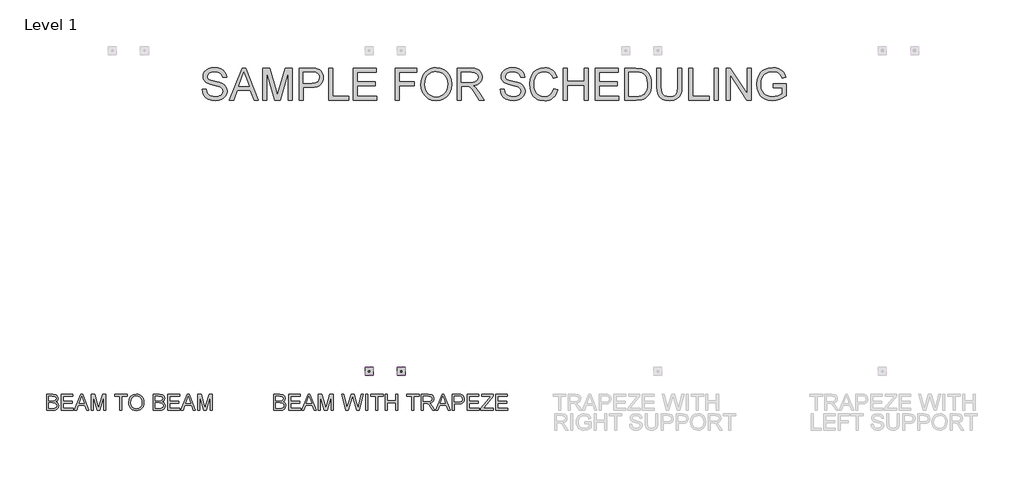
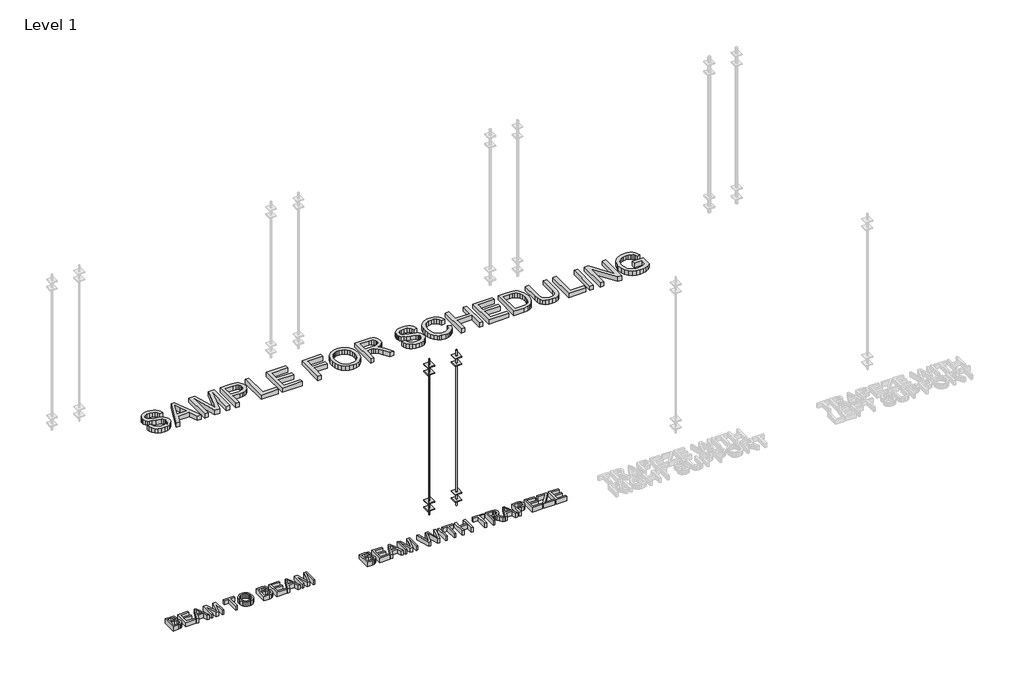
# One storey, part 1 of 3: 13 proxies.
"""IFC4 building model written with IfcOpenShell, lengths in millimetres."""

from ifc_helpers import new_model, si_unit, origin, origin_with_axes, place, context, project, spatial, polyline, outline, extrude, transform, mapped, element, save
from components import square_washer_square_washer_0353e511, threaded_rod_threaded_rod_3e89cda6

model = new_model("IFC4")

# Units and contexts
model_context = context("Model", 3, world=origin())
ifc_project = project(units=[si_unit("LENGTHUNIT", "METRE", prefix="MILLI")], contexts=[model_context])

# Site, building, storey
site = spatial("IfcSite", under=ifc_project)
building = spatial("IfcBuilding", under=site)
storey = spatial("IfcBuildingStorey", under=building, Name="Level 1", Elevation=0.0)

# Proxies
placement = place(None, origin())
element("IfcBuildingElementProxy", 1, Name="12\" Arial", ObjectType="12\" Arial", at=placement, inside=storey, context=model_context, shape_type="SweptSolid", body=[
    extrude(outline(polyline([(699.0566374, -366.945528), (737.1275242, -366.945528), (741.4960097, -388.0722677), (749.3964623, -405.0535934), (761.7211683, -418.530836), (779.3624142, -429.1453264), (800.9260024, -436.0326621), (825.0177354, -438.3284407), (846.2281269, -436.5903411), (864.7988378, -431.3760424), (879.8468762, -423.1223932), (890.4892506, -412.2662418), (896.8189073, -399.8021161), (898.9287929, -386.7245434), (897.3487024, -373.9815781), (892.6084308, -362.9674178), (882.9791733, -353.5705265), (866.732125, -345.6793686), (811.2988319, -331.1425359), (774.9102768, -321.522573), (751.6271783, -312.3673427), (732.6753868, -299.5593149), (719.2446174, -284.0372492), (711.2419237, -266.1357532), (708.5743591, -246.1894341), (711.8739599, -223.8915685), (721.7727622, -203.0994363), (738.0105159, -185.4767797), (760.3269708, -172.6873412), (787.1141523, -164.9077191), (816.7640861, -162.3145117), (848.8863968, -165.0285495), (876.9934187, -173.170663), (900.0813295, -186.5735484), (917.146307, -205.0699021), (927.9466904, -227.5071874), (932.2408188, -252.7328677), (894.169932, -252.7328677), (887.1803552, -230.0167429), (872.6063438, -213.6209802), (849.8344511, -203.6942939), (818.2512301, -200.3853985), (785.9244371, -203.6571153), (763.747402, -213.4722658), (750.9207849, -227.916152), (746.6452458, -245.0740761), (749.6753018, -259.7038553), (758.7654696, -271.4708823), (780.2547006, -281.9924262), (820.9280893, -292.7370417), (862.9027291, -302.9425675), (888.2957132, -311.8468423), (909.9987211, -325.6586923), (925.1397061, -342.7050806), (934.0346863, -362.8001141), (936.9996796, -385.7578998), (933.5885431, -409.2268913), (923.3551333, -431.3016852), (906.7177097, -450.29995), (884.0945313, -464.5393539), (856.8890905, -473.4343341), (826.5048794, -476.3993275), (789.2054486, -473.2019678), (758.5052194, -463.6098889), (734.050995, -447.5859122), (715.4895787, -425.092859), (703.5738373, -397.6922305), (699.0566374, -366.945528)])), origin_with_axes(), (0.0, 0.0, 1.0), 50.8),
    extrude(outline(polyline([(958.637625, -471.6404666), (1080.2116482, -167.0733725), (1112.6313877, -167.0733725), (1234.2054108, -471.6404666), (1193.9781653, -471.6404666), (1159.1046381, -376.4632497), (1033.6640405, -376.4632497), (998.8648706, -471.6404666), (958.637625, -471.6404666)]), holes=[polyline([(1047.6431943, -338.392363), (1145.1998416, -338.392363), (1117.7620345, -263.5146618), (1096.4215179, -205.1442593), (1077.4604318, -256.9712282), (1047.6431943, -338.392363)])]), origin_with_axes(), (0.0, 0.0, 1.0), 50.8),
    extrude(outline(polyline([(1274.8787996, -471.6404666), (1274.8787996, -167.0733725), (1340.3874934, -167.0733725), (1402.6988276, -381.742611), (1415.2651945, -426.580003), (1428.8725623, -378.0247509), (1490.1428956, -167.0733725), (1555.6515895, -167.0733725), (1555.6515895, -471.6404666), (1517.5807027, -471.6404666), (1517.5807027, -205.1442593), (1441.0671432, -471.6404666), (1389.4632459, -471.6404666), (1312.9496864, -205.1442593), (1312.9496864, -471.6404666), (1274.8787996, -471.6404666)])), origin_with_axes(), (0.0, 0.0, 1.0), 50.8),
    extrude(outline(polyline([(1622.2756413, -471.6404666), (1622.2756413, -167.0733725), (1735.149872, -167.0733725), (1780.6564788, -169.9733034), (1800.9466999, -175.3920844), (1817.6491861, -184.2127073), (1831.0985448, -196.8348421), (1841.6293834, -213.6581588), (1848.4330672, -233.5022367), (1850.7009618, -255.1866554), (1849.1696682, -273.882844), (1844.5757874, -291.082594), (1836.9193194, -306.7859053), (1826.2002642, -320.992778), (1811.4845095, -332.7690996), (1791.8379428, -341.180758), (1767.2605643, -346.227753), (1737.752374, -347.9100846), (1660.346528, -347.9100846), (1660.346528, -471.6404666), (1622.2756413, -471.6404666)]), holes=[polyline([(1660.346528, -309.8391979), (1739.98309, -309.8391979), (1773.7412591, -306.3444095), (1796.0484193, -295.8600442), (1808.4846611, -279.0367275), (1812.6300751, -256.525085), (1810.1855821, -239.4229288), (1802.8521032, -224.9976319), (1791.540514, -214.1414806), (1777.1616903, -207.7467613), (1739.0908036, -205.1442593), (1660.346528, -205.1442593), (1660.346528, -309.8391979)])]), origin_with_axes(), (0.0, 0.0, 1.0), 50.8),
    extrude(outline(polyline([(1903.0484311, -471.6404666), (1903.0484311, -167.0733725), (1941.1193179, -167.0733725), (1941.1193179, -433.5695798), (2093.4028649, -433.5695798), (2093.4028649, -471.6404666), (1903.0484311, -471.6404666)])), origin_with_axes(), (0.0, 0.0, 1.0), 50.8),
    extrude(outline(polyline([(2136.2326125, -471.6404666), (2136.2326125, -167.0733725), (2355.1402114, -167.0733725), (2355.1402114, -205.1442593), (2174.3034993, -205.1442593), (2174.3034993, -295.5626153), (2345.6224897, -295.5626153), (2345.6224897, -333.6335021), (2174.3034993, -333.6335021), (2174.3034993, -433.5695798), (2359.8990722, -433.5695798), (2359.8990722, -471.6404666), (2136.2326125, -471.6404666)])), origin_with_axes(), (0.0, 0.0, 1.0), 50.8),
    extrude(outline(polyline([(2535.9769235, -471.6404666), (2535.9769235, -167.0733725), (2740.6079398, -167.0733725), (2740.6079398, -205.1442593), (2574.0478103, -205.1442593), (2574.0478103, -295.5626153), (2716.8136356, -295.5626153), (2716.8136356, -333.6335021), (2574.0478103, -333.6335021), (2574.0478103, -471.6404666), (2535.9769235, -471.6404666)])), origin_with_axes(), (0.0, 0.0, 1.0), 50.8),
    extrude(outline(polyline([(2778.6788266, -323.3722084), (2781.2162661, -287.6482208), (2788.8285845, -256.0231739), (2801.5157818, -228.4970676), (2819.2778582, -205.0699021), (2841.050576, -186.3644188), (2865.7696979, -173.0033593), (2893.4352239, -164.9867236), (2924.0471539, -162.3145117), (2963.99556, -167.3336227), (2999.8171415, -182.3909559), (3029.5600217, -206.426921), (3051.2723243, -238.381928), (3064.5450847, -276.713065), (3068.9693381, -319.87742), (3064.3127184, -363.6180433), (3050.3428593, -402.48827), (3027.8312168, -434.4990449), (2997.5492468, -457.6613129), (2962.0343889, -471.7148238), (2923.8240823, -476.3993275), (2883.2622294, -471.2222074), (2847.2361656, -455.6908471), (2817.5676425, -431.2087387), (2796.0784115, -399.1793745), (2783.0287228, -362.3260869), (2778.6788266, -323.3722084)]), holes=[polyline([(2816.7497133, -323.7439944), (2818.6527929, -348.9836167), (2824.3620318, -371.3883708), (2833.8774298, -390.9582565), (2847.198987, -407.693274), (2863.3925911, -421.0961594), (2881.5241298, -430.669649), (2901.593603, -436.4137428), (2923.6010107, -438.3284407), (2945.9848518, -436.3951535), (2966.2913386, -430.5952918), (2984.5204711, -420.9288557), (3000.6722493, -407.3958452), (3013.8962127, -390.307631), (3023.3419008, -369.9755839), (3029.0093137, -346.399704), (3030.8984514, -319.5799912), (3027.6639131, -285.87759), (3017.9602984, -256.7481566), (3002.0385628, -232.9259684), (2980.1496619, -215.1453028), (2953.743561, -204.0753745), (2924.2702256, -200.3853985), (2903.0273028, -202.1630003), (2883.3179973, -207.4958058), (2865.142309, -216.3838149), (2848.500238, -228.8270277), (2834.6093835, -245.4249491), (2824.6873445, -266.777084), (2818.7341211, -292.8834325), (2816.7497133, -323.7439944)])]), origin_with_axes(), (0.0, 0.0, 1.0), 50.8),
    extrude(outline(polyline([(3121.3168074, -471.6404666), (3121.3168074, -167.0733725), (3252.5572666, -167.0733725), (3287.8304637, -169.1274902), (3313.4929926, -175.2898432), (3332.2495965, -186.6664949), (3346.8050185, -204.3635087), (3356.1461419, -226.3081775), (3359.2598496, -250.4277945), (3354.1013188, -280.430925), (3338.6257265, -305.3034086), (3326.902849, -315.4392246), (3312.36834, -323.5395121), (3274.8644269, -333.6335021), (3296.5023723, -349.9177291), (3327.3606105, -389.1039738), (3378.1465786, -471.6404666), (3333.9040442, -471.6404666), (3294.2716562, -408.5112032), (3265.644134, -366.7224564), (3245.5305112, -346.9806196), (3227.4245328, -339.7307926), (3205.3404442, -338.392363), (3159.3876942, -338.392363), (3159.3876942, -471.6404666), (3121.3168074, -471.6404666)]), holes=[polyline([(3159.3876942, -300.3214762), (3244.6010462, -300.3214762), (3269.0738598, -298.9737519), (3288.06283, -294.9305791), (3302.3580018, -287.922413), (3312.7494206, -277.6797086), (3319.0790773, -265.28994), (3321.1889629, -251.8405813), (3317.1643794, -233.2698705), (3305.0906289, -218.3054838), (3284.317086, -208.4345654), (3254.1931251, -205.1442593), (3159.3876942, -205.1442593), (3159.3876942, -300.3214762)])]), origin_with_axes(), (0.0, 0.0, 1.0), 50.8),
    extrude(outline(polyline([(3530.5788401, -366.945528), (3568.6497268, -366.945528), (3573.0182124, -388.0722677), (3580.9186649, -405.0535934), (3593.243371, -418.530836), (3610.8846168, -429.1453264), (3632.448205, -436.0326621), (3656.539938, -438.3284407), (3677.7503295, -436.5903411), (3696.3210404, -431.3760424), (3711.3690789, -423.1223932), (3722.0114533, -412.2662418), (3728.34111, -399.8021161), (3730.4509955, -386.7245434), (3728.870905, -373.9815781), (3724.1306335, -362.9674178), (3714.501376, -353.5705265), (3698.2543276, -345.6793686), (3642.8210345, -331.1425359), (3606.4324794, -321.522573), (3583.149381, -312.3673427), (3564.1975894, -299.5593149), (3550.7668201, -284.0372492), (3542.7641263, -266.1357532), (3540.0965618, -246.1894341), (3543.3961625, -223.8915685), (3553.2949649, -203.0994363), (3569.5327186, -185.4767797), (3591.8491734, -172.6873412), (3618.636355, -164.9077191), (3648.2862888, -162.3145117), (3680.4085995, -165.0285495), (3708.5156213, -173.170663), (3731.6035322, -186.5735484), (3748.6685097, -205.0699021), (3759.4688931, -227.5071874), (3763.7630215, -252.7328677), (3725.6921347, -252.7328677), (3718.7025578, -230.0167429), (3704.1285465, -213.6209802), (3681.3566538, -203.6942939), (3649.7734328, -200.3853985), (3617.4466398, -203.6571153), (3595.2696047, -213.4722658), (3582.4429875, -227.916152), (3578.1674485, -245.0740761), (3581.1975044, -259.7038553), (3590.2876722, -271.4708823), (3611.7769032, -281.9924262), (3652.450292, -292.7370417), (3694.4249318, -302.9425675), (3719.8179158, -311.8468423), (3741.5209238, -325.6586923), (3756.6619088, -342.7050806), (3765.5568889, -362.8001141), (3768.5218823, -385.7578998), (3765.1107457, -409.2268913), (3754.877336, -431.3016852), (3738.2399123, -450.29995), (3715.616734, -464.5393539), (3688.4112932, -473.4343341), (3658.0270821, -476.3993275), (3620.7276513, -473.2019678), (3590.027422, -463.6098889), (3565.5731976, -447.5859122), (3547.0117814, -425.092859), (3535.09604, -397.6922305), (3530.5788401, -366.945528)])), origin_with_axes(), (0.0, 0.0, 1.0), 50.8),
    extrude(outline(polyline([(4039.7769505, -363.3763824), (4077.8478372, -373.1915329), (4070.3145233, -396.8673303), (4060.2809485, -417.5548977), (4047.7471129, -435.2542352), (4032.7130164, -449.9653426), (4015.5179137, -461.530211), (3996.5010596, -469.7908312), (3975.6624542, -474.7472034), (3953.0020972, -476.3993275), (3908.8432147, -471.3988057), (3890.1725863, -465.1481535), (3873.7744999, -456.3972405), (3846.8943718, -431.9151321), (3827.3012495, -398.4729811), (3815.3390348, -359.1566112), (3811.3516299, -317.0518464), (3815.8595352, -272.6420082), (3829.3832511, -234.292282), (3851.2163841, -203.2202667), (3880.652541, -180.6435617), (3915.5632467, -166.8967742), (3953.8200264, -162.3145117), (3975.5950679, -163.7970084), (3995.5623, -168.2444985), (4013.7217226, -175.6569819), (4030.0733358, -186.0344587), (4044.3475946, -199.1027367), (4056.2749544, -214.5876238), (4073.0889764, -252.8072249), (4035.0180896, -261.8788034), (4021.8196865, -234.1156836), (4003.7880653, -215.0709456), (3980.7001545, -204.0567852), (3952.3328824, -200.3853985), (3919.6343034, -204.4564552), (3892.7727647, -216.6696254), (3872.389597, -235.7422474), (3859.1261314, -260.3916594), (3851.8484203, -288.2570204), (3849.4225167, -316.9774892), (3852.2945635, -352.1484451), (3860.9107042, -382.5605402), (3875.5962513, -407.0519431), (3896.6765177, -424.4608228), (3921.9486713, -434.8615362), (3949.20988, -438.3284407), (3980.9882887, -433.6067584), (4007.4687468, -419.4417117), (4027.4615391, -395.9820149), (4039.7769505, -363.3763824)])), origin_with_axes(), (0.0, 0.0, 1.0), 50.8),
    extrude(outline(polyline([(4130.1953065, -471.6404666), (4130.1953065, -167.0733725), (4168.2661933, -167.0733725), (4168.2661933, -290.8037545), (4330.067462, -290.8037545), (4330.067462, -167.0733725), (4368.1383487, -167.0733725), (4368.1383487, -471.6404666), (4330.067462, -471.6404666), (4330.067462, -328.8746413), (4168.2661933, -328.8746413), (4168.2661933, -471.6404666), (4130.1953065, -471.6404666)])), origin_with_axes(), (0.0, 0.0, 1.0), 50.8),
    extrude(outline(polyline([(4434.7624006, -471.6404666), (4434.7624006, -167.0733725), (4653.6699994, -167.0733725), (4653.6699994, -205.1442593), (4472.8332873, -205.1442593), (4472.8332873, -295.5626153), (4644.1522777, -295.5626153), (4644.1522777, -333.6335021), (4472.8332873, -333.6335021), (4472.8332873, -433.5695798), (4658.4288603, -433.5695798), (4658.4288603, -471.6404666), (4434.7624006, -471.6404666)])), origin_with_axes(), (0.0, 0.0, 1.0), 50.8),
    extrude(outline(polyline([(4715.5351904, -471.6404666), (4715.5351904, -167.0733725), (4820.601915, -167.0733725), (4874.9570287, -171.4604474), (4899.2346548, -179.918579), (4919.7200635, -193.2471072), (4940.7817406, -216.4465538), (4955.7833059, -245.2971477), (4964.7619379, -279.2412098), (4967.7548152, -317.7210612), (4965.7285815, -350.4103455), (4959.6498803, -379.1772875), (4950.3924088, -403.6686905), (4938.8298641, -423.5313578), (4925.5199252, -439.2114325), (4911.0202711, -451.1550578), (4894.3735528, -460.0128593), (4874.6224213, -466.4354626), (4825.6582047, -471.6404666), (4715.5351904, -471.6404666)]), holes=[polyline([(4753.6060772, -433.5695798), (4820.973701, -433.5695798), (4848.839062, -432.1939716), (4869.9750963, -428.067147), (4885.9247158, -421.4307668), (4898.2308325, -412.5264921), (4911.4571196, -396.0470774), (4921.3931006, -374.7158555), (4927.6112215, -348.4398797), (4929.6839284, -317.1262036), (4925.6221663, -275.6348856), (4913.4368801, -244.9997189), (4895.4331429, -223.9566311), (4873.9160279, -211.2415498), (4852.0178323, -206.6685819), (4819.9327002, -205.1442593), (4753.6060772, -205.1442593), (4753.6060772, -433.5695798)])]), origin_with_axes(), (0.0, 0.0, 1.0), 50.8),
    extrude(outline(polyline([(5219.97444, -167.0733725), (5258.0453267, -167.0733725), (5258.0453267, -342.7794378), (5255.461414, -383.9268537), (5247.7096758, -415.6123159), (5233.228611, -440.0572456), (5210.4567183, -459.4830643), (5179.3382298, -472.1702617), (5139.8173776, -476.3993275), (5101.1609279, -472.718646), (5070.2562164, -461.6766017), (5047.0939483, -443.6542752), (5031.6648292, -419.0327471), (5022.9929207, -386.0088554), (5020.1022845, -342.7794378), (5020.1022845, -167.0733725), (5058.1731712, -167.0733725), (5058.1731712, -341.4410082), (5060.0506906, -375.6546152), (5065.6832485, -399.4768033), (5075.8887743, -415.9748072), (5091.4851972, -428.2158614), (5111.8218916, -435.8002959), (5136.248232, -438.3284407), (5174.9697442, -433.3279189), (5189.4647511, -427.0772668), (5200.715925, -418.3263537), (5209.1415253, -406.020237), (5215.1598112, -389.1039738), (5219.97444, -341.4410082), (5219.97444, -167.0733725)])), origin_with_axes(), (0.0, 0.0, 1.0), 50.8),
    extrude(outline(polyline([(5324.6693786, -471.6404666), (5324.6693786, -167.0733725), (5362.7402653, -167.0733725), (5362.7402653, -433.5695798), (5515.0238123, -433.5695798), (5515.0238123, -471.6404666), (5324.6693786, -471.6404666)])), origin_with_axes(), (0.0, 0.0, 1.0), 50.8),
    extrude(outline(polyline([(5562.6124208, -471.6404666), (5562.6124208, -167.0733725), (5600.6833076, -167.0733725), (5600.6833076, -471.6404666), (5562.6124208, -471.6404666)])), origin_with_axes(), (0.0, 0.0, 1.0), 50.8),
    extrude(outline(polyline([(5676.8250811, -471.6404666), (5676.8250811, -167.0733725), (5717.5728271, -167.0733725), (5876.6972366, -408.3624888), (5876.6972366, -167.0733725), (5914.7681233, -167.0733725), (5914.7681233, -471.6404666), (5874.0203773, -471.6404666), (5714.8959678, -230.2769931), (5714.8959678, -471.6404666), (5676.8250811, -471.6404666)])), origin_with_axes(), (0.0, 0.0, 1.0), 50.8),
    extrude(outline(polyline([(6124.1580005, -352.6689455), (6124.1580005, -314.5980587), (6247.8883825, -314.5980587), (6247.8883825, -428.438933), (6217.8201894, -449.3518957), (6186.8039421, -464.3534609), (6154.9139976, -473.3878608), (6122.2247133, -476.3993275), (6079.5157961, -471.6125827), (6040.9151143, -457.2523483), (6008.8485715, -433.8205354), (5985.7420714, -401.8190551), (5971.7722123, -363.4321503), (5967.1155926, -320.8440636), (5971.753623, -277.9492534), (5985.6677142, -238.0473206), (6008.2815978, -204.5772856), (6022.6348612, -191.5438626), (6039.0190057, -180.9781691), (6076.4578562, -166.980426), (6119.176068, -162.3145117), (6150.5362174, -165.0192549), (6178.7361858, -173.1334844), (6202.4840168, -186.0716373), (6220.487754, -203.2481507), (6233.8069876, -225.4902483), (6243.5013076, -253.6251542), (6208.4047089, -263.5146618), (6200.5693189, -243.4475123), (6191.0423025, -228.3065273), (6178.438757, -216.892697), (6161.3737794, -208.0070115), (6141.0277904, -202.2908017), (6118.5812104, -200.3853985), (6092.3052346, -202.4395161), (6069.8400654, -208.6018691), (6051.2693545, -218.1010015), (6036.6767539, -230.1654573), (6017.0836315, -259.499373), (6008.1607674, -288.2384311), (6005.1864794, -319.2825624), (6008.7649196, -355.6897068), (6019.5002405, -385.646364), (6037.0671292, -408.9387571), (6061.1402729, -425.3531092), (6089.3123573, -435.0846078), (6119.176068, -438.3284407), (6145.5449903, -435.8839477), (6171.2632871, -428.5504688), (6193.5983313, -418.4471842), (6209.8174957, -407.693274), (6209.8174957, -352.6689455), (6124.1580005, -352.6689455)])), origin_with_axes(), (0.0, 0.0, 1.0), 50.8),
])
element("IfcBuildingElementProxy", 2, Name="6\" Arial", ObjectType="6\" Arial", at=placement, inside=storey, context=model_context, shape_type="SweptSolid", body=[
    extrude(outline(polyline([(-778.0718909, -3418.4860814), (-778.0718909, -3265.3906647), (-719.6519358, -3265.3906647), (-691.0399872, -3269.8945704), (-681.4248026, -3275.6085503), (-674.1456687, -3283.7426788), (-668.0345602, -3303.3281276), (-673.1738717, -3321.2129315), (-688.7039365, -3334.7620254), (-677.8599893, -3340.4246122), (-669.8473355, -3349.0399671), (-664.8995802, -3360.0380936), (-663.2503284, -3372.8489955), (-667.7542341, -3393.4249298), (-678.9112121, -3408.0766396), (-695.5625813, -3415.8510162), (-720.1004575, -3418.4860814), (-778.0718909, -3418.4860814)]), holes=[polyline([(-758.9349638, -3327.5856777), (-723.9876458, -3327.5856777), (-703.5799072, -3325.9410981), (-691.3016249, -3318.8581924), (-687.1714873, -3306.3930261), (-691.0212988, -3293.9091713), (-702.0474579, -3286.5272512), (-726.6413994, -3284.5275918), (-758.9349638, -3284.5275918), (-758.9349638, -3327.5856777)]), polyline([(-758.9349638, -3399.3491543), (-719.6893126, -3399.3491543), (-705.4861245, -3398.6016181), (-693.4694799, -3394.4341037), (-685.5082192, -3385.9308792), (-682.3872555, -3373.0358796), (-686.0501829, -3358.1599089), (-697.9173203, -3349.2829163), (-721.5581531, -3346.7226048), (-758.9349638, -3346.7226048), (-758.9349638, -3399.3491543)])]), origin_with_axes(), (0.0, 0.0, 1.0), 50.8),
    extrude(outline(polyline([(-636.9370537, -3418.4860814), (-636.9370537, -3265.3906647), (-526.8997229, -3265.3906647), (-526.8997229, -3284.5275918), (-617.8001266, -3284.5275918), (-617.8001266, -3329.9777936), (-531.6839547, -3329.9777936), (-531.6839547, -3349.1147207), (-617.8001266, -3349.1147207), (-617.8001266, -3399.3491543), (-524.5076071, -3399.3491543), (-524.5076071, -3418.4860814), (-636.9370537, -3418.4860814)])), origin_with_axes(), (0.0, 0.0, 1.0), 50.8),
    extrude(outline(polyline([(-513.6309551, -3418.4860814), (-452.5198696, -3265.3906647), (-436.2235802, -3265.3906647), (-375.1124947, -3418.4860814), (-395.3333492, -3418.4860814), (-412.8630735, -3370.6437637), (-475.9177531, -3370.6437637), (-493.4101006, -3418.4860814), (-513.6309551, -3418.4860814)]), holes=[polyline([(-468.8909127, -3351.5068366), (-419.8525371, -3351.5068366), (-433.6445802, -3313.8683882), (-444.3717249, -3284.5275918), (-453.9028116, -3310.5792289), (-468.8909127, -3351.5068366)])]), origin_with_axes(), (0.0, 0.0, 1.0), 50.8),
    extrude(outline(polyline([(-354.6673792, -3418.4860814), (-354.6673792, -3265.3906647), (-321.738409, -3265.3906647), (-290.4166416, -3373.2975172), (-284.0999606, -3395.8357341), (-277.2600042, -3371.4286767), (-246.4615122, -3265.3906647), (-213.532542, -3265.3906647), (-213.532542, -3418.4860814), (-232.669469, -3418.4860814), (-232.669469, -3284.5275918), (-271.1302073, -3418.4860814), (-297.0697139, -3418.4860814), (-335.5304521, -3284.5275918), (-335.5304521, -3418.4860814), (-354.6673792, -3418.4860814)])), origin_with_axes(), (0.0, 0.0, 1.0), 50.8),
    extrude(outline(polyline([(-81.9661683, -3418.4860814), (-81.9661683, -3284.5275918), (-132.2006018, -3284.5275918), (-132.2006018, -3265.3906647), (-12.5948076, -3265.3906647), (-12.5948076, -3284.5275918), (-62.8292412, -3284.5275918), (-62.8292412, -3418.4860814), (-81.9661683, -3418.4860814)])), origin_with_axes(), (0.0, 0.0, 1.0), 50.8),
    extrude(outline(polyline([(1.7578877, -3343.9567208), (6.8598224, -3310.1026745), (13.2372407, -3296.2662464), (22.1656264, -3284.490215), (45.5354773, -3268.3714654), (74.8295527, -3262.9985488), (94.9102442, -3265.5214835), (112.9165228, -3273.0902877), (127.8672471, -3285.1723418), (138.7812758, -3301.2350262), (145.4530365, -3320.5027721), (147.6769567, -3342.2000107), (145.336234, -3364.1869196), (138.3140657, -3383.7256474), (126.9982362, -3399.8163644), (111.7765301, -3411.459241), (93.9244308, -3418.5234582), (74.7174222, -3420.8781973), (54.328372, -3418.2758368), (36.2193072, -3410.4687555), (21.3059597, -3398.1624406), (10.5040614, -3382.0623793), (3.9444312, -3363.5374975), (1.7578877, -3343.9567208)]), holes=[polyline([(20.8948148, -3344.1436049), (24.7212658, -3368.0927963), (36.2006188, -3386.3420242), (53.454689, -3397.8914587), (74.6052918, -3401.7412702), (96.0642533, -3397.8540819), (113.3463561, -3386.1925169), (124.7416113, -3367.3826369), (128.5400297, -3342.0505035), (126.9141384, -3325.109464), (122.0364646, -3310.4670984), (114.033155, -3298.4925027), (103.0303564, -3289.5547728), (89.7569165, -3283.9903001), (74.9416831, -3282.1354759), (54.3564046, -3285.7096334), (36.854713, -3296.432106), (24.8847894, -3315.5082958), (20.8948148, -3344.1436049)])]), origin_with_axes(), (0.0, 0.0, 1.0), 50.8),
    extrude(outline(polyline([(233.7931286, -3418.4860814), (233.7931286, -3265.3906647), (292.2130838, -3265.3906647), (320.8250324, -3269.8945704), (330.4402169, -3275.6085503), (337.7193508, -3283.7426788), (343.8304594, -3303.3281276), (338.6911479, -3321.2129315), (323.161083, -3334.7620254), (334.0050302, -3340.4246122), (342.017684, -3349.0399671), (346.9654394, -3360.0380936), (348.6146911, -3372.8489955), (344.1107854, -3393.4249298), (332.9538074, -3408.0766396), (316.3024383, -3415.8510162), (291.764562, -3418.4860814), (233.7931286, -3418.4860814)]), holes=[polyline([(252.9300557, -3327.5856777), (287.8773737, -3327.5856777), (308.2851124, -3325.9410981), (320.5633947, -3318.8581924), (324.6935323, -3306.3930261), (320.8437208, -3293.9091713), (309.8175616, -3286.5272512), (285.2236202, -3284.5275918), (252.9300557, -3284.5275918), (252.9300557, -3327.5856777)]), polyline([(252.9300557, -3399.3491543), (292.175707, -3399.3491543), (306.378895, -3398.6016181), (318.3955397, -3394.4341037), (326.3568003, -3385.9308792), (329.477764, -3373.0358796), (325.8148366, -3358.1599089), (313.9476992, -3349.2829163), (290.3068664, -3346.7226048), (252.9300557, -3346.7226048), (252.9300557, -3399.3491543)])]), origin_with_axes(), (0.0, 0.0, 1.0), 50.8),
    extrude(outline(polyline([(374.9279659, -3418.4860814), (374.9279659, -3265.3906647), (484.9652966, -3265.3906647), (484.9652966, -3284.5275918), (394.0648929, -3284.5275918), (394.0648929, -3329.9777936), (480.1810648, -3329.9777936), (480.1810648, -3349.1147207), (394.0648929, -3349.1147207), (394.0648929, -3399.3491543), (487.3574125, -3399.3491543), (487.3574125, -3418.4860814), (374.9279659, -3418.4860814)])), origin_with_axes(), (0.0, 0.0, 1.0), 50.8),
    extrude(outline(polyline([(498.2340644, -3418.4860814), (559.3451499, -3265.3906647), (575.6414394, -3265.3906647), (636.7525249, -3418.4860814), (616.5316703, -3418.4860814), (599.0019461, -3370.6437637), (535.9472664, -3370.6437637), (518.454919, -3418.4860814), (498.2340644, -3418.4860814)]), holes=[polyline([(542.9741068, -3351.5068366), (592.0124825, -3351.5068366), (578.2204393, -3313.8683882), (567.4932946, -3284.5275918), (557.9622079, -3310.5792289), (542.9741068, -3351.5068366)])]), origin_with_axes(), (0.0, 0.0, 1.0), 50.8),
    extrude(outline(polyline([(657.1976403, -3418.4860814), (657.1976403, -3265.3906647), (690.1266106, -3265.3906647), (721.448378, -3373.2975172), (727.765059, -3395.8357341), (734.6050153, -3371.4286767), (765.4035074, -3265.3906647), (798.3324776, -3265.3906647), (798.3324776, -3418.4860814), (779.1955505, -3418.4860814), (779.1955505, -3284.5275918), (740.7348123, -3418.4860814), (714.7953056, -3418.4860814), (676.3345674, -3284.5275918), (676.3345674, -3418.4860814), (657.1976403, -3418.4860814)])), origin_with_axes(), (0.0, 0.0, 1.0), 50.8),
])
element("IfcBuildingElementProxy", 3, Name="6\" Arial", ObjectType="6\" Arial", at=placement, inside=storey, context=model_context, shape_type="SweptSolid", body=[
    extrude(outline(polyline([(1380.9281091, -3418.4860814), (1380.9281091, -3265.3906647), (1439.3480642, -3265.3906647), (1467.9600128, -3269.8945704), (1477.5751974, -3275.6085503), (1484.8543313, -3283.7426788), (1490.9654398, -3303.3281276), (1485.8261283, -3321.2129315), (1470.2960635, -3334.7620254), (1481.1400107, -3340.4246122), (1489.1526645, -3349.0399671), (1494.1004198, -3360.0380936), (1495.7496716, -3372.8489955), (1491.2457659, -3393.4249298), (1480.0887879, -3408.0766396), (1463.4374187, -3415.8510162), (1438.8995425, -3418.4860814), (1380.9281091, -3418.4860814)]), holes=[polyline([(1400.0650362, -3327.5856777), (1435.0123542, -3327.5856777), (1455.4200928, -3325.9410981), (1467.6983751, -3318.8581924), (1471.8285127, -3306.3930261), (1467.9787012, -3293.9091713), (1456.9525421, -3286.5272512), (1432.3586006, -3284.5275918), (1400.0650362, -3284.5275918), (1400.0650362, -3327.5856777)]), polyline([(1400.0650362, -3399.3491543), (1439.3106874, -3399.3491543), (1453.5138755, -3398.6016181), (1465.5305201, -3394.4341037), (1473.4917808, -3385.9308792), (1476.6127445, -3373.0358796), (1472.9498171, -3358.1599089), (1461.0826797, -3349.2829163), (1437.4418469, -3346.7226048), (1400.0650362, -3346.7226048), (1400.0650362, -3399.3491543)])]), origin_with_axes(), (0.0, 0.0, 1.0), 50.8),
    extrude(outline(polyline([(1522.0629463, -3418.4860814), (1522.0629463, -3265.3906647), (1632.1002771, -3265.3906647), (1632.1002771, -3284.5275918), (1541.1998734, -3284.5275918), (1541.1998734, -3329.9777936), (1627.3160453, -3329.9777936), (1627.3160453, -3349.1147207), (1541.1998734, -3349.1147207), (1541.1998734, -3399.3491543), (1634.4923929, -3399.3491543), (1634.4923929, -3418.4860814), (1522.0629463, -3418.4860814)])), origin_with_axes(), (0.0, 0.0, 1.0), 50.8),
    extrude(outline(polyline([(1645.3690449, -3418.4860814), (1706.4801304, -3265.3906647), (1722.7764198, -3265.3906647), (1783.8875053, -3418.4860814), (1763.6666508, -3418.4860814), (1746.1369265, -3370.6437637), (1683.0822469, -3370.6437637), (1665.5898994, -3418.4860814), (1645.3690449, -3418.4860814)]), holes=[polyline([(1690.1090873, -3351.5068366), (1739.1474629, -3351.5068366), (1725.3554198, -3313.8683882), (1714.6282751, -3284.5275918), (1705.0971884, -3310.5792289), (1690.1090873, -3351.5068366)])]), origin_with_axes(), (0.0, 0.0, 1.0), 50.8),
    extrude(outline(polyline([(1804.3326208, -3418.4860814), (1804.3326208, -3265.3906647), (1837.261591, -3265.3906647), (1868.5833584, -3373.2975172), (1874.9000394, -3395.8357341), (1881.7399958, -3371.4286767), (1912.5384878, -3265.3906647), (1945.467458, -3265.3906647), (1945.467458, -3418.4860814), (1926.330531, -3418.4860814), (1926.330531, -3284.5275918), (1887.8697927, -3418.4860814), (1861.9302861, -3418.4860814), (1823.4695479, -3284.5275918), (1823.4695479, -3418.4860814), (1804.3326208, -3418.4860814)])), origin_with_axes(), (0.0, 0.0, 1.0), 50.8),
    extrude(outline(polyline([(2066.1571798, -3418.4860814), (2024.4072823, -3265.3906647), (2044.1422383, -3265.3906647), (2068.3624117, -3366.0090391), (2075.8377738, -3397.0691688), (2083.8364113, -3369.597213), (2114.1863816, -3265.3906647), (2142.6301345, -3265.3906647), (2164.6824529, -3340.9291992), (2181.0908728, -3397.0691688), (2188.341974, -3366.9060826), (2212.7864082, -3265.3906647), (2232.5213643, -3265.3906647), (2190.7340899, -3418.4860814), (2170.2889745, -3418.4860814), (2133.5849463, -3300.3753595), (2128.4643233, -3283.892186), (2122.7082944, -3303.7392725), (2089.2560488, -3418.4860814), (2066.1571798, -3418.4860814)])), origin_with_axes(), (0.0, 0.0, 1.0), 50.8),
    extrude(outline(polyline([(2254.0504073, -3418.4860814), (2254.0504073, -3265.3906647), (2273.1873344, -3265.3906647), (2273.1873344, -3418.4860814), (2254.0504073, -3418.4860814)])), origin_with_axes(), (0.0, 0.0, 1.0), 50.8),
    extrude(outline(polyline([(2349.7350427, -3418.4860814), (2349.7350427, -3284.5275918), (2299.5006091, -3284.5275918), (2299.5006091, -3265.3906647), (2419.1064034, -3265.3906647), (2419.1064034, -3284.5275918), (2368.8719698, -3284.5275918), (2368.8719698, -3418.4860814), (2349.7350427, -3418.4860814)])), origin_with_axes(), (0.0, 0.0, 1.0), 50.8),
    extrude(outline(polyline([(2440.6354463, -3418.4860814), (2440.6354463, -3265.3906647), (2459.7723734, -3265.3906647), (2459.7723734, -3327.5856777), (2541.1043135, -3327.5856777), (2541.1043135, -3265.3906647), (2560.2412406, -3265.3906647), (2560.2412406, -3418.4860814), (2541.1043135, -3418.4860814), (2541.1043135, -3346.7226048), (2459.7723734, -3346.7226048), (2459.7723734, -3418.4860814), (2440.6354463, -3418.4860814)])), origin_with_axes(), (0.0, 0.0, 1.0), 50.8),
    extrude(outline(polyline([(2691.8076143, -3418.4860814), (2691.8076143, -3284.5275918), (2641.5731807, -3284.5275918), (2641.5731807, -3265.3906647), (2761.178975, -3265.3906647), (2761.178975, -3284.5275918), (2710.9445414, -3284.5275918), (2710.9445414, -3418.4860814), (2691.8076143, -3418.4860814)])), origin_with_axes(), (0.0, 0.0, 1.0), 50.8),
    extrude(outline(polyline([(2782.7080179, -3418.4860814), (2782.7080179, -3265.3906647), (2848.6780889, -3265.3906647), (2879.3083852, -3269.5208023), (2888.7366857, -3275.2394543), (2896.0531964, -3284.1351353), (2900.7486583, -3295.1659665), (2902.3138122, -3307.2900695), (2899.720796, -3322.3716126), (2891.9417472, -3334.8741558), (2878.743061, -3344.0408186), (2859.8911321, -3349.1147207), (2870.767784, -3357.3002422), (2886.2791604, -3376.9978215), (2911.8075221, -3418.4860814), (2889.5683198, -3418.4860814), (2869.6464797, -3386.7531691), (2855.2564075, -3365.7474015), (2845.1459802, -3355.8238582), (2836.0447268, -3352.1796192), (2824.9438141, -3351.5068366), (2801.844945, -3351.5068366), (2801.844945, -3418.4860814), (2782.7080179, -3418.4860814)]), holes=[polyline([(2801.844945, -3332.3699095), (2844.6787701, -3332.3699095), (2866.525516, -3329.6600907), (2878.9346171, -3320.9886706), (2883.1768851, -3308.0002289), (2881.1538653, -3298.6653704), (2875.0848056, -3291.1432873), (2864.6426591, -3286.1815157), (2849.5003787, -3284.5275918), (2801.844945, -3284.5275918), (2801.844945, -3332.3699095)])]), origin_with_axes(), (0.0, 0.0, 1.0), 50.8),
    extrude(outline(polyline([(2917.9746959, -3418.4860814), (2979.0857814, -3265.3906647), (2995.3820709, -3265.3906647), (3056.4931564, -3418.4860814), (3036.2723018, -3418.4860814), (3018.7425776, -3370.6437637), (2955.6878979, -3370.6437637), (2938.1955505, -3418.4860814), (2917.9746959, -3418.4860814)]), holes=[polyline([(2962.7147383, -3351.5068366), (3011.753114, -3351.5068366), (2997.9610708, -3313.8683882), (2987.2339262, -3284.5275918), (2977.7028394, -3310.5792289), (2962.7147383, -3351.5068366)])]), origin_with_axes(), (0.0, 0.0, 1.0), 50.8),
    extrude(outline(polyline([(3076.9382719, -3418.4860814), (3076.9382719, -3265.3906647), (3133.6762705, -3265.3906647), (3156.5508787, -3266.8483603), (3175.145842, -3274.0060196), (3187.1998635, -3288.8072366), (3191.7598344, -3309.6821854), (3188.6809196, -3327.7258408), (3179.4441752, -3342.7606629), (3162.1714166, -3352.908467), (3134.9844589, -3356.2910684), (3096.0751989, -3356.2910684), (3096.0751989, -3418.4860814), (3076.9382719, -3418.4860814)]), holes=[polyline([(3096.0751989, -3337.1541413), (3136.1057632, -3337.1541413), (3153.0748353, -3335.3974312), (3164.2878785, -3330.1273009), (3170.5391501, -3321.6707974), (3172.6229073, -3310.354968), (3167.7078567, -3294.5072003), (3154.7941686, -3285.8357802), (3135.6572415, -3284.5275918), (3096.0751989, -3284.5275918), (3096.0751989, -3337.1541413)])]), origin_with_axes(), (0.0, 0.0, 1.0), 50.8),
    extrude(outline(polyline([(3218.0731091, -3418.4860814), (3218.0731091, -3265.3906647), (3328.1104398, -3265.3906647), (3328.1104398, -3284.5275918), (3237.2100362, -3284.5275918), (3237.2100362, -3329.9777936), (3323.3262081, -3329.9777936), (3323.3262081, -3349.1147207), (3237.2100362, -3349.1147207), (3237.2100362, -3399.3491543), (3330.5025557, -3399.3491543), (3330.5025557, -3418.4860814), (3218.0731091, -3418.4860814)])), origin_with_axes(), (0.0, 0.0, 1.0), 50.8),
    extrude(outline(polyline([(3347.2473669, -3418.4860814), (3347.2473669, -3398.6389949), (3425.5517853, -3302.7674754), (3440.427756, -3284.5275918), (3356.8158305, -3284.5275918), (3356.8158305, -3265.3906647), (3464.4610453, -3265.3906647), (3464.4610453, -3284.5275918), (3378.7560183, -3389.4442995), (3370.6826272, -3399.3491543), (3466.8531612, -3399.3491543), (3466.8531612, -3418.4860814), (3347.2473669, -3418.4860814)])), origin_with_axes(), (0.0, 0.0, 1.0), 50.8),
    extrude(outline(polyline([(3488.3822042, -3418.4860814), (3488.3822042, -3265.3906647), (3598.4195349, -3265.3906647), (3598.4195349, -3284.5275918), (3507.5191312, -3284.5275918), (3507.5191312, -3329.9777936), (3593.6353031, -3329.9777936), (3593.6353031, -3349.1147207), (3507.5191312, -3349.1147207), (3507.5191312, -3399.3491543), (3600.8116508, -3399.3491543), (3600.8116508, -3418.4860814), (3488.3822042, -3418.4860814)])), origin_with_axes(), (0.0, 0.0, 1.0), 50.8),
])
square_washer_square_washer_shape = square_washer_square_washer_0353e511(model_context)
element("IfcBuildingElementProxy", 4, Name="SQUARE WASHER : SQUARE WASHER", ObjectType="SQUARE WASHER : SQUARE WASHER", at=placement, inside=storey, context=model_context, shape_type="MappedRepresentation", body=[
    mapped(square_washer_square_washer_shape, transform((2590.8, -3048.0, 1743.075), x_axis=(1.0, 0.0, 0.0), y_axis=(0.0, 1.0, 0.0), z_axis=(0.0, 0.0, 1.0))),
])
element("IfcBuildingElementProxy", 5, Name="SQUARE WASHER : SQUARE WASHER", ObjectType="SQUARE WASHER : SQUARE WASHER", at=placement, inside=storey, context=model_context, shape_type="MappedRepresentation", body=[
    mapped(square_washer_square_washer_shape, transform((2590.8, -3048.0, 1828.8), x_axis=(1.0, 0.0, 0.0), y_axis=(0.0, 1.0, 0.0), z_axis=(0.0, 0.0, 1.0))),
])
element("IfcBuildingElementProxy", 6, Name="SQUARE WASHER : SQUARE WASHER", ObjectType="SQUARE WASHER : SQUARE WASHER", at=placement, inside=storey, context=model_context, shape_type="MappedRepresentation", body=[
    mapped(square_washer_square_washer_shape, transform((2590.8, -3048.0, 228.6), x_axis=(1.0, 0.0, 0.0), y_axis=(0.0, 1.0, 0.0), z_axis=(0.0, 0.0, 1.0))),
])
element("IfcBuildingElementProxy", 7, Name="SQUARE WASHER : SQUARE WASHER", ObjectType="SQUARE WASHER : SQUARE WASHER", at=placement, inside=storey, context=model_context, shape_type="MappedRepresentation", body=[
    mapped(square_washer_square_washer_shape, transform((2590.8, -3048.0, 142.875), x_axis=(1.0, 0.0, 0.0), y_axis=(0.0, 1.0, 0.0), z_axis=(0.0, 0.0, 1.0))),
])
element("IfcBuildingElementProxy", 8, Name="SQUARE WASHER : SQUARE WASHER", ObjectType="SQUARE WASHER : SQUARE WASHER", at=placement, inside=storey, context=model_context, shape_type="MappedRepresentation", body=[
    mapped(square_washer_square_washer_shape, transform((2286.0, -3048.0, 1743.075), x_axis=(1.0, 0.0, 0.0), y_axis=(0.0, 1.0, 0.0), z_axis=(0.0, 0.0, 1.0))),
])
element("IfcBuildingElementProxy", 9, Name="SQUARE WASHER : SQUARE WASHER", ObjectType="SQUARE WASHER : SQUARE WASHER", at=placement, inside=storey, context=model_context, shape_type="MappedRepresentation", body=[
    mapped(square_washer_square_washer_shape, transform((2286.0, -3048.0, 1828.8), x_axis=(1.0, 0.0, 0.0), y_axis=(0.0, 1.0, 0.0), z_axis=(0.0, 0.0, 1.0))),
])
element("IfcBuildingElementProxy", 10, Name="SQUARE WASHER : SQUARE WASHER", ObjectType="SQUARE WASHER : SQUARE WASHER", at=placement, inside=storey, context=model_context, shape_type="MappedRepresentation", body=[
    mapped(square_washer_square_washer_shape, transform((2286.0, -3048.0, 228.6), x_axis=(1.0, 0.0, 0.0), y_axis=(0.0, 1.0, 0.0), z_axis=(0.0, 0.0, 1.0))),
])
element("IfcBuildingElementProxy", 11, Name="SQUARE WASHER : SQUARE WASHER", ObjectType="SQUARE WASHER : SQUARE WASHER", at=placement, inside=storey, context=model_context, shape_type="MappedRepresentation", body=[
    mapped(square_washer_square_washer_shape, transform((2286.0, -3048.0, 142.875), x_axis=(1.0, 0.0, 0.0), y_axis=(0.0, 1.0, 0.0), z_axis=(0.0, 0.0, 1.0))),
])
threaded_rod_threaded_rod_shape = threaded_rod_threaded_rod_3e89cda6(model_context)
element("IfcBuildingElementProxy", 12, Name="THREADED ROD : THREADED ROD", ObjectType="THREADED ROD : THREADED ROD", at=placement, inside=storey, context=model_context, shape_type="MappedRepresentation", body=[
    mapped(threaded_rod_threaded_rod_shape, transform((2590.8, -3048.0, 76.2), x_axis=(1.0, 0.0, 0.0), y_axis=(0.0, 1.0, 0.0), z_axis=(0.0, 0.0, 1.0))),
])
element("IfcBuildingElementProxy", 13, Name="THREADED ROD : THREADED ROD", ObjectType="THREADED ROD : THREADED ROD", at=placement, inside=storey, context=model_context, shape_type="MappedRepresentation", body=[
    mapped(threaded_rod_threaded_rod_shape, transform((2286.0, -3048.0, 76.2), x_axis=(1.0, 0.0, 0.0), y_axis=(0.0, 1.0, 0.0), z_axis=(0.0, 0.0, 1.0))),
])

save(model, "model.ifc")
